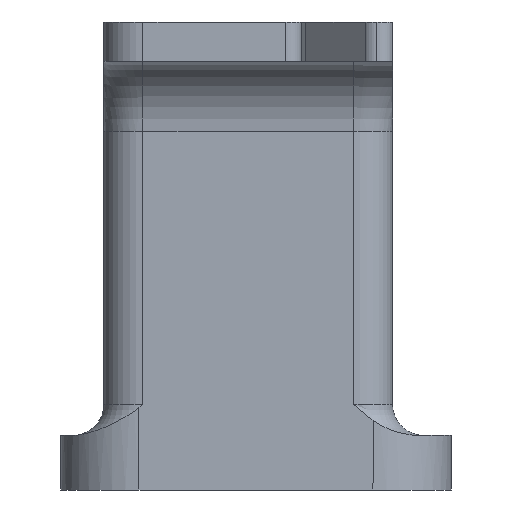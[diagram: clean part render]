
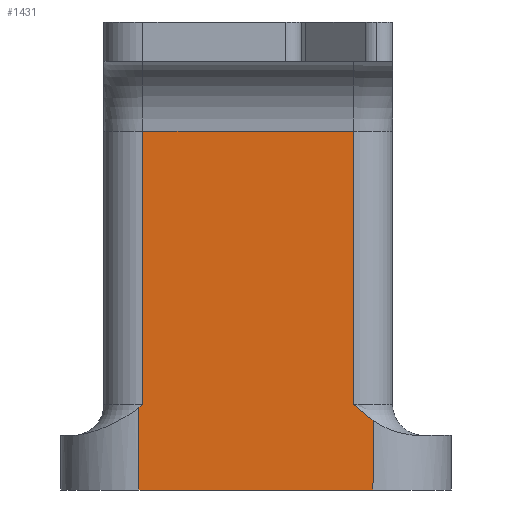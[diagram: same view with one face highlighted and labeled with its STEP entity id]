
A CAD part, left-side view. The second image highlights one B-rep face of the part: STEP entity #1431.
In plain terms, the highlighted planar face has unit normal (-1, 0, 0).
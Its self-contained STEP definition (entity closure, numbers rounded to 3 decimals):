
#7 = LINE ( 'NONE', #1126, #479 ) ;
#64 = ORIENTED_EDGE ( 'NONE', *, *, #363, .T. ) ;
#67 = LINE ( 'NONE', #1460, #1547 ) ;
#121 = CARTESIAN_POINT ( 'NONE',  ( 28., 13.5, -9. ) ) ;
#148 = CARTESIAN_POINT ( 'NONE',  ( 28., -15.138, -45.429 ) ) ;
#172 = VERTEX_POINT ( 'NONE', #899 ) ;
#196 = CARTESIAN_POINT ( 'NONE',  ( 28., 14., -44.446 ) ) ;
#211 = CARTESIAN_POINT ( 'NONE',  ( 28., -13.5, -44. ) ) ;
#223 = CARTESIAN_POINT ( 'NONE',  ( 28., 18.5, -48. ) ) ;
#315 = ORIENTED_EDGE ( 'NONE', *, *, #657, .F. ) ;
#346 = DIRECTION ( 'NONE',  ( 0., 1., 0. ) ) ;
#363 = EDGE_CURVE ( 'NONE', #731, #973, #484, .T. ) ;
#406 = CARTESIAN_POINT ( 'NONE',  ( 28., -14.31, -44.725 ) ) ;
#421 = EDGE_CURVE ( 'NONE', #966, #731, #1134, .T. ) ;
#433 = CARTESIAN_POINT ( 'NONE',  ( 28., -16., -46.091 ) ) ;
#448 = DIRECTION ( 'NONE',  ( 0., 1., 0. ) ) ;
#456 = EDGE_LOOP ( 'NONE', ( #315, #1223, #934, #1375, #64, #1310, #1559, #1622 ) ) ;
#470 = B_SPLINE_CURVE_WITH_KNOTS ( 'NONE', 3,
 ( #1282, #1014, #148, #406, #649, #788 ),
 .UNSPECIFIED., .F., .F.,
 ( 4, 2, 4 ),
 ( 0.005, 0.007, 0.009 ),
 .UNSPECIFIED. ) ;
#479 = VECTOR ( 'NONE', #758, 1000. ) ;
#484 = LINE ( 'NONE', #987, #852 ) ;
#490 = CARTESIAN_POINT ( 'NONE',  ( 28., 14., -48. ) ) ;
#497 = CARTESIAN_POINT ( 'NONE',  ( 28., 13.5, -44. ) ) ;
#519 = CARTESIAN_POINT ( 'NONE',  ( 28., 13.5, -44. ) ) ;
#566 = VERTEX_POINT ( 'NONE', #1293 ) ;
#627 = VERTEX_POINT ( 'NONE', #196 ) ;
#649 = CARTESIAN_POINT ( 'NONE',  ( 28., -13.904, -44.361 ) ) ;
#657 = EDGE_CURVE ( 'NONE', #172, #566, #67, .T. ) ;
#684 = AXIS2_PLACEMENT_3D ( 'NONE', #223, #1204, #346 ) ;
#730 = DIRECTION ( 'NONE',  ( 0., 1., 0. ) ) ;
#731 = VERTEX_POINT ( 'NONE', #940 ) ;
#758 = DIRECTION ( 'NONE',  ( 0., 0., 1. ) ) ;
#788 = CARTESIAN_POINT ( 'NONE',  ( 28., -13.5, -44. ) ) ;
#823 = VECTOR ( 'NONE', #856, 1000. ) ;
#852 = VECTOR ( 'NONE', #730, 1000. ) ;
#856 = DIRECTION ( 'NONE',  ( 0., 0., -1. ) ) ;
#871 = LINE ( 'NONE', #1367, #823 ) ;
#899 = CARTESIAN_POINT ( 'NONE',  ( 28., -16., -55. ) ) ;
#934 = ORIENTED_EDGE ( 'NONE', *, *, #1135, .T. ) ;
#940 = CARTESIAN_POINT ( 'NONE',  ( 28., -13.5, -9. ) ) ;
#966 = VERTEX_POINT ( 'NONE', #211 ) ;
#973 = VERTEX_POINT ( 'NONE', #121 ) ;
#987 = CARTESIAN_POINT ( 'NONE',  ( 28., 18.5, -9. ) ) ;
#1014 = CARTESIAN_POINT ( 'NONE',  ( 28., -15.56, -45.771 ) ) ;
#1024 = VECTOR ( 'NONE', #1142, 1000. ) ;
#1031 = CARTESIAN_POINT ( 'NONE',  ( 28., 14., -44.446 ) ) ;
#1036 = CARTESIAN_POINT ( 'NONE',  ( 28., 13.833, -44.298 ) ) ;
#1126 = CARTESIAN_POINT ( 'NONE',  ( 28., -16., -48. ) ) ;
#1134 = LINE ( 'NONE', #1233, #1353 ) ;
#1135 = EDGE_CURVE ( 'NONE', #1344, #966, #470, .T. ) ;
#1142 = DIRECTION ( 'NONE',  ( 0., 0., -1. ) ) ;
#1157 = CARTESIAN_POINT ( 'NONE',  ( 28., 13.666, -44.149 ) ) ;
#1170 = EDGE_CURVE ( 'NONE', #1606, #627, #1178, .T. ) ;
#1178 = B_SPLINE_CURVE_WITH_KNOTS ( 'NONE', 3,
 ( #519, #1157, #1036, #1031 ),
 .UNSPECIFIED., .F., .F.,
 ( 4, 4 ),
 ( 0., 0.001 ),
 .UNSPECIFIED. ) ;
#1186 = PLANE ( 'NONE',  #684 ) ;
#1204 = DIRECTION ( 'NONE',  ( 1., 0., 0. ) ) ;
#1223 = ORIENTED_EDGE ( 'NONE', *, *, #1578, .T. ) ;
#1233 = CARTESIAN_POINT ( 'NONE',  ( 28., -13.5, -48. ) ) ;
#1282 = CARTESIAN_POINT ( 'NONE',  ( 28., -16., -46.091 ) ) ;
#1293 = CARTESIAN_POINT ( 'NONE',  ( 28., 14., -55. ) ) ;
#1294 = FACE_OUTER_BOUND ( 'NONE', #456, .T. ) ;
#1310 = ORIENTED_EDGE ( 'NONE', *, *, #1582, .T. ) ;
#1344 = VERTEX_POINT ( 'NONE', #433 ) ;
#1353 = VECTOR ( 'NONE', #1617, 1000. ) ;
#1358 = LINE ( 'NONE', #490, #1024 ) ;
#1367 = CARTESIAN_POINT ( 'NONE',  ( 28., 13.5, -48. ) ) ;
#1375 = ORIENTED_EDGE ( 'NONE', *, *, #421, .T. ) ;
#1431 = ADVANCED_FACE ( 'NONE', ( #1294 ), #1186, .F. ) ;
#1460 = CARTESIAN_POINT ( 'NONE',  ( 28., 24., -55. ) ) ;
#1547 = VECTOR ( 'NONE', #448, 1000. ) ;
#1559 = ORIENTED_EDGE ( 'NONE', *, *, #1170, .T. ) ;
#1578 = EDGE_CURVE ( 'NONE', #172, #1344, #7, .T. ) ;
#1582 = EDGE_CURVE ( 'NONE', #973, #1606, #871, .T. ) ;
#1606 = VERTEX_POINT ( 'NONE', #497 ) ;
#1617 = DIRECTION ( 'NONE',  ( 0., 0., 1. ) ) ;
#1622 = ORIENTED_EDGE ( 'NONE', *, *, #1636, .T. ) ;
#1636 = EDGE_CURVE ( 'NONE', #627, #566, #1358, .T. ) ;
